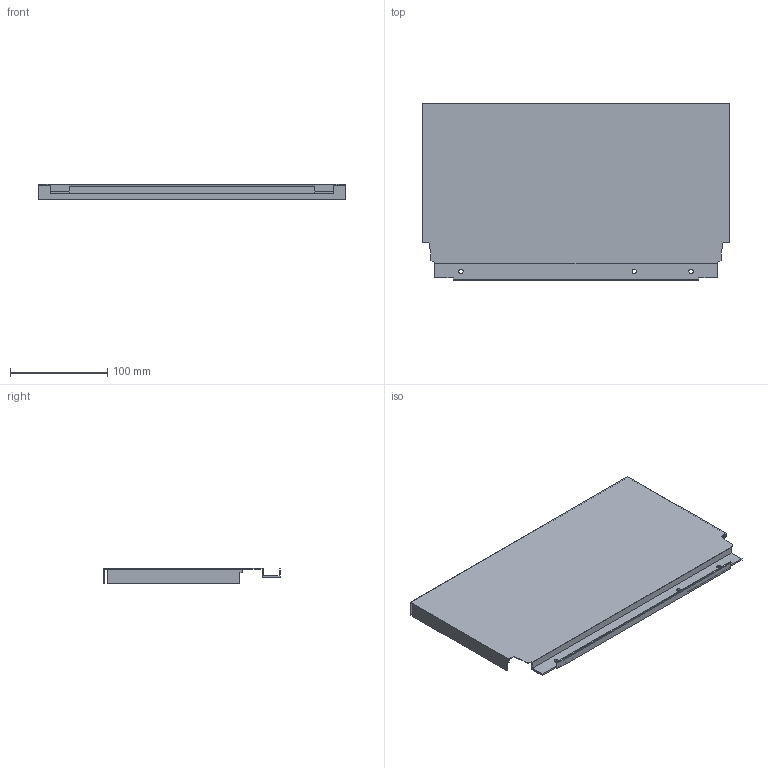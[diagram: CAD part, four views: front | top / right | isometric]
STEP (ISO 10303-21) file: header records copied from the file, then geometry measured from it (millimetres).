
FILE_DESCRIPTION (( 'STEP AP214' ), '1' );
FILE_NAME ('_DWD_XP Stahlrückwand_H182_KAB400_S16.step', '2010-07-08T12:57:32', ( 'grass' ), ( '' ), 'SwSTEP 2.0', 'SolidWorks 2010', '' );
FILE_SCHEMA (( 'AUTOMOTIVE_DESIGN' ));
Length unit declared in the file: millimetre
Products named in the file (1): _DWD_XP Stahlrückwand_H182_KAB400_S16
Bounding box: 317 x 182.49 x 16 mm (x, y, z)
Volume: 60378.6 mm3; surface area: 140917.9 mm2
Topology: 1 solids, 1 shells, 46 faces, 132 edges, 88 vertices
Faces by surface type: plane 40, cylinder 6
Entity records: 1534 total; most frequent: CARTESIAN_POINT 267, ORIENTED_EDGE 264, DIRECTION 238, EDGE_CURVE 132, LINE 120, VECTOR 120, VERTEX_POINT 88, AXIS2_PLACEMENT_3D 59
